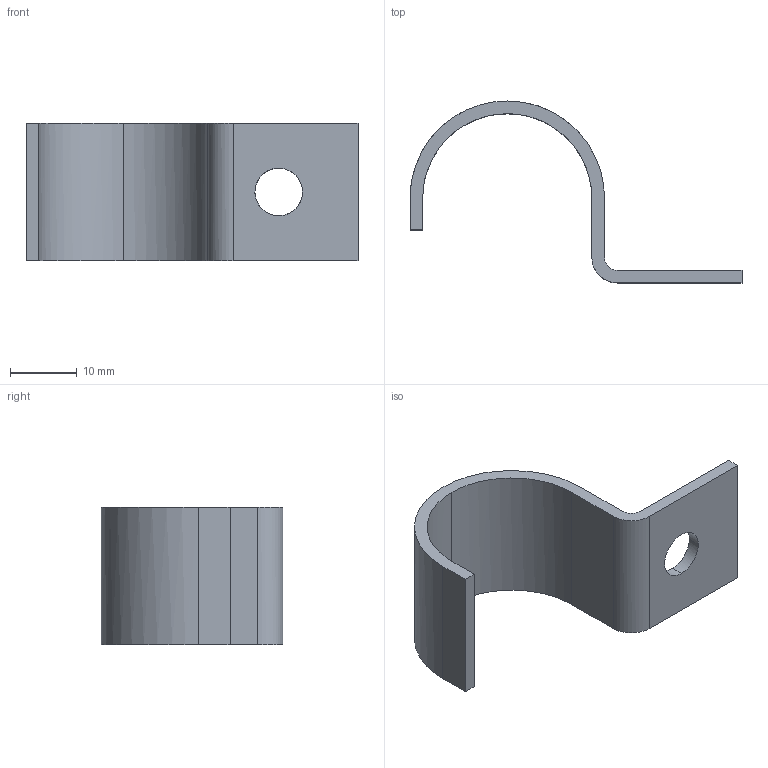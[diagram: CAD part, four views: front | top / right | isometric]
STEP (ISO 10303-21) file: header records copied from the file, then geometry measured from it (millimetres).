
FILE_DESCRIPTION(('TurboCAD Mac Pro'),'Build 980');
FILE_NAME('P2020.stp',' ',(''),(''),'ACIS Interop','IMSI','TurboCAD Mac Pro BY IMSI, INCORPORATED');
FILE_SCHEMA(('automotive_design'));
Length unit declared in the file: inch
Products named in the file (1): 1
Bounding box: 49.86 x 27.31 x 20.64 mm (x, y, z)
Volume: 3061.6 mm3; surface area: 3638.8 mm2
Topology: 1 solids, 1 shells, 20 faces, 54 edges, 36 vertices
Faces by surface type: bspline 10, plane 10
Entity records: 866 total; most frequent: CARTESIAN_POINT 241, ORIENTED_EDGE 108, DIRECTION 56, EDGE_CURVE 54, VERTEX_POINT 36, LINE 34, VECTOR 34, EDGE_LOOP 22
